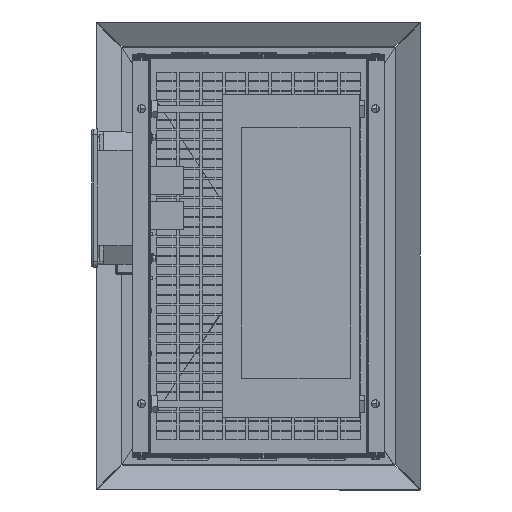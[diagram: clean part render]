
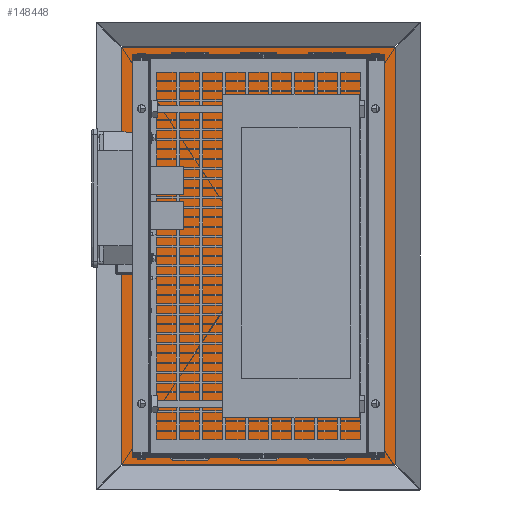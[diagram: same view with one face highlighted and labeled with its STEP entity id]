
A CAD part, front view. The second image highlights one B-rep face of the part: STEP entity #148448.
In plain terms, the highlighted planar face has unit normal (0, -1, 0).
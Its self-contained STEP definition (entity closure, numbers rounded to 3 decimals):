
#4553=FACE_BOUND('',#20575,.T.);
#4554=FACE_BOUND('',#20576,.T.);
#4555=FACE_BOUND('',#20577,.T.);
#4556=FACE_BOUND('',#20578,.T.);
#6118=PLANE('',#157740);
#11852=FACE_OUTER_BOUND('',#20574,.T.);
#20574=EDGE_LOOP('',(#103997,#103998,#103999,#104000,#104001,#104002,#104003,
#104004,#104005,#104006,#104007,#104008));
#20575=EDGE_LOOP('',(#104009));
#20576=EDGE_LOOP('',(#104010));
#20577=EDGE_LOOP('',(#104011));
#20578=EDGE_LOOP('',(#104012));
#29939=CIRCLE('',#156918,7.5);
#29976=CIRCLE('',#157006,7.5);
#30011=CIRCLE('',#157091,7.5);
#30304=CIRCLE('',#157741,7.5);
#35549=LINE('',#215324,#50346);
#35550=LINE('',#215326,#50347);
#35551=LINE('',#215328,#50348);
#35552=LINE('',#215330,#50349);
#35553=LINE('',#215332,#50350);
#35554=LINE('',#215334,#50351);
#35555=LINE('',#215336,#50352);
#35556=LINE('',#215338,#50353);
#35557=LINE('',#215340,#50354);
#35558=LINE('',#215342,#50355);
#35559=LINE('',#215344,#50356);
#35560=LINE('',#215345,#50357);
#50346=VECTOR('',#174831,10.);
#50347=VECTOR('',#174832,10.);
#50348=VECTOR('',#174833,10.);
#50349=VECTOR('',#174834,10.);
#50350=VECTOR('',#174835,10.);
#50351=VECTOR('',#174836,10.);
#50352=VECTOR('',#174837,10.);
#50353=VECTOR('',#174838,10.);
#50354=VECTOR('',#174839,10.);
#50355=VECTOR('',#174840,10.);
#50356=VECTOR('',#174841,10.);
#50357=VECTOR('',#174842,10.);
#64982=VERTEX_POINT('',#212661);
#65046=VERTEX_POINT('',#212986);
#65107=VERTEX_POINT('',#213292);
#65568=VERTEX_POINT('',#215322);
#65569=VERTEX_POINT('',#215323);
#65570=VERTEX_POINT('',#215325);
#65571=VERTEX_POINT('',#215327);
#65572=VERTEX_POINT('',#215329);
#65573=VERTEX_POINT('',#215331);
#65574=VERTEX_POINT('',#215333);
#65575=VERTEX_POINT('',#215335);
#65576=VERTEX_POINT('',#215337);
#65577=VERTEX_POINT('',#215339);
#65578=VERTEX_POINT('',#215341);
#65579=VERTEX_POINT('',#215343);
#65580=VERTEX_POINT('',#215346);
#78884=EDGE_CURVE('',#64982,#64982,#29939,.T.);
#78993=EDGE_CURVE('',#65046,#65046,#29976,.T.);
#79097=EDGE_CURVE('',#65107,#65107,#30011,.T.);
#79872=EDGE_CURVE('',#65568,#65569,#35549,.T.);
#79873=EDGE_CURVE('',#65569,#65570,#35550,.T.);
#79874=EDGE_CURVE('',#65570,#65571,#35551,.T.);
#79875=EDGE_CURVE('',#65571,#65572,#35552,.T.);
#79876=EDGE_CURVE('',#65572,#65573,#35553,.T.);
#79877=EDGE_CURVE('',#65573,#65574,#35554,.T.);
#79878=EDGE_CURVE('',#65574,#65575,#35555,.T.);
#79879=EDGE_CURVE('',#65575,#65576,#35556,.T.);
#79880=EDGE_CURVE('',#65576,#65577,#35557,.T.);
#79881=EDGE_CURVE('',#65577,#65578,#35558,.T.);
#79882=EDGE_CURVE('',#65578,#65579,#35559,.T.);
#79883=EDGE_CURVE('',#65579,#65568,#35560,.T.);
#79884=EDGE_CURVE('',#65580,#65580,#30304,.T.);
#103997=ORIENTED_EDGE('',*,*,#79872,.T.);
#103998=ORIENTED_EDGE('',*,*,#79873,.T.);
#103999=ORIENTED_EDGE('',*,*,#79874,.T.);
#104000=ORIENTED_EDGE('',*,*,#79875,.T.);
#104001=ORIENTED_EDGE('',*,*,#79876,.T.);
#104002=ORIENTED_EDGE('',*,*,#79877,.T.);
#104003=ORIENTED_EDGE('',*,*,#79878,.T.);
#104004=ORIENTED_EDGE('',*,*,#79879,.T.);
#104005=ORIENTED_EDGE('',*,*,#79880,.T.);
#104006=ORIENTED_EDGE('',*,*,#79881,.T.);
#104007=ORIENTED_EDGE('',*,*,#79882,.T.);
#104008=ORIENTED_EDGE('',*,*,#79883,.T.);
#104009=ORIENTED_EDGE('',*,*,#78884,.T.);
#104010=ORIENTED_EDGE('',*,*,#78993,.T.);
#104011=ORIENTED_EDGE('',*,*,#79097,.T.);
#104012=ORIENTED_EDGE('',*,*,#79884,.T.);
#148448=ADVANCED_FACE('',(#11852,#4553,#4554,#4555,#4556),#6118,.F.);
#156918=AXIS2_PLACEMENT_3D('',#212663,#172892,#172893);
#157006=AXIS2_PLACEMENT_3D('',#212988,#173098,#173099);
#157091=AXIS2_PLACEMENT_3D('',#213294,#173297,#173298);
#157740=AXIS2_PLACEMENT_3D('',#215321,#174829,#174830);
#157741=AXIS2_PLACEMENT_3D('',#215347,#174843,#174844);
#172892=DIRECTION('center_axis',(0.,1.,0.));
#172893=DIRECTION('ref_axis',(0.148,0.,0.989));
#173098=DIRECTION('center_axis',(0.,1.,0.));
#173099=DIRECTION('ref_axis',(0.148,0.,0.989));
#173297=DIRECTION('center_axis',(0.,1.,0.));
#173298=DIRECTION('ref_axis',(0.148,0.,0.989));
#174829=DIRECTION('center_axis',(0.,1.,0.));
#174830=DIRECTION('ref_axis',(0.,0.,
1.));
#174831=DIRECTION('',(0.,0.,-1.));
#174832=DIRECTION('',(0.,0.,-1.));
#174833=DIRECTION('',(0.,0.,-1.));
#174834=DIRECTION('',(1.,0.,0.));
#174835=DIRECTION('',(1.,0.,0.));
#174836=DIRECTION('',(1.,0.,0.));
#174837=DIRECTION('',(0.,0.,1.));
#174838=DIRECTION('',(0.,0.,1.));
#174839=DIRECTION('',(0.,0.,1.));
#174840=DIRECTION('',(-1.,0.,0.));
#174841=DIRECTION('',(-1.,0.,0.));
#174842=DIRECTION('',(-1.,0.,0.));
#174843=DIRECTION('center_axis',(0.,1.,0.));
#174844=DIRECTION('ref_axis',(0.148,0.,0.989));
#212661=CARTESIAN_POINT('',(-13.607,83.5,40.082));
#212663=CARTESIAN_POINT('Origin',(-12.5,83.5,47.5));
#212986=CARTESIAN_POINT('',(-13.607,83.5,450.082));
#212988=CARTESIAN_POINT('Origin',(-12.5,83.5,457.5));
#213292=CARTESIAN_POINT('',(-338.607,83.5,40.082));
#213294=CARTESIAN_POINT('Origin',(-337.5,83.5,47.5));
#215321=CARTESIAN_POINT('Origin',(-175.,83.5,252.5));
#215322=CARTESIAN_POINT('',(-364.824,83.5,542.464));
#215323=CARTESIAN_POINT('',(-364.824,83.5,542.257));
#215324=CARTESIAN_POINT('',(-364.824,83.5,397.482));
#215325=CARTESIAN_POINT('',(-364.824,83.5,-37.257));
#215326=CARTESIAN_POINT('',(-364.824,83.5,397.482));
#215327=CARTESIAN_POINT('',(-364.824,83.5,-37.464));
#215328=CARTESIAN_POINT('',(-364.824,83.5,397.482));
#215329=CARTESIAN_POINT('',(-364.617,83.5,-37.464));
#215330=CARTESIAN_POINT('',(-269.912,83.5,-37.464));
#215331=CARTESIAN_POINT('',(14.617,83.5,-37.464));
#215332=CARTESIAN_POINT('',(-269.912,83.5,-37.464));
#215333=CARTESIAN_POINT('',(14.824,83.5,-37.464));
#215334=CARTESIAN_POINT('',(-269.912,83.5,-37.464));
#215335=CARTESIAN_POINT('',(14.824,83.5,-37.257));
#215336=CARTESIAN_POINT('',(14.824,83.5,107.518));
#215337=CARTESIAN_POINT('',(14.824,83.5,542.257));
#215338=CARTESIAN_POINT('',(14.824,83.5,107.518));
#215339=CARTESIAN_POINT('',(14.824,83.5,542.464));
#215340=CARTESIAN_POINT('',(14.824,83.5,107.518));
#215341=CARTESIAN_POINT('',(14.617,83.5,542.464));
#215342=CARTESIAN_POINT('',(-80.088,83.5,542.464));
#215343=CARTESIAN_POINT('',(-364.617,83.5,542.464));
#215344=CARTESIAN_POINT('',(-80.088,83.5,542.464));
#215345=CARTESIAN_POINT('',(-80.088,83.5,542.464));
#215346=CARTESIAN_POINT('',(-338.607,83.5,450.082));
#215347=CARTESIAN_POINT('Origin',(-337.5,83.5,457.5));
